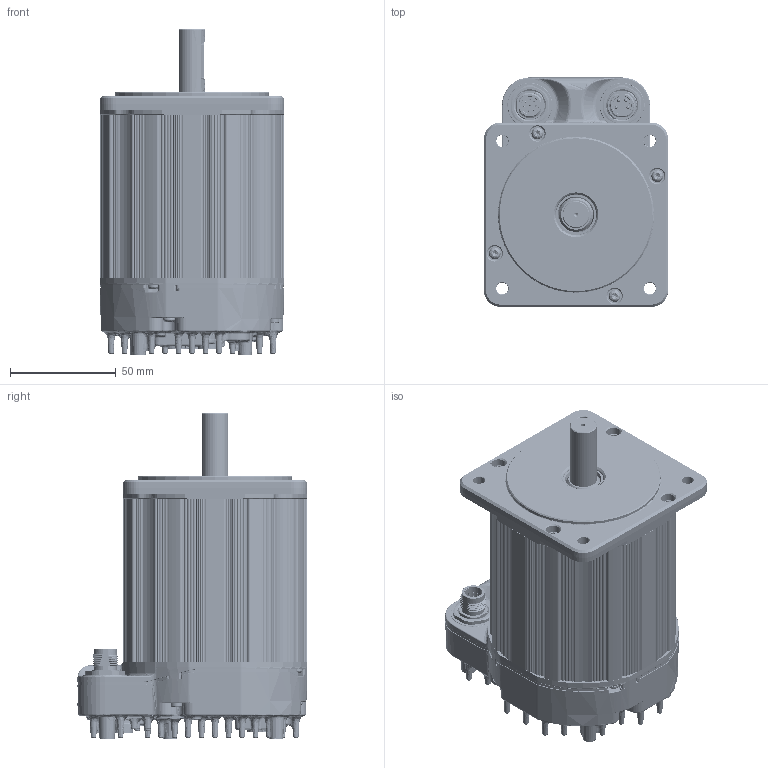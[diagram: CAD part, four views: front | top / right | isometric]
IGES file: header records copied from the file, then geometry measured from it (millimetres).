
Start section: SolidWorks IGES file using analytic representation for surfaces
Global section: file name: C:\TeknicPDM\EtherPath CPM-S\EtherPath CPM-S Customer Files\CPM-S Customer Models\CPMS 343x.IGS; native system: SolidWorks 2020; preprocessor: SolidWorks 2020; author: mike_berezny; date: 230808.154005; units: inch
Bounding box: 86.87 x 108.59 x 153.98 mm (x, y, z)
Surface area: 189060.2 mm2 (no closed solid volume)
Topology: 0 solids, 0 shells, 10843 faces, 111157 edges, 110566 vertices
Faces by surface type: bspline 5452, revolution 5391
